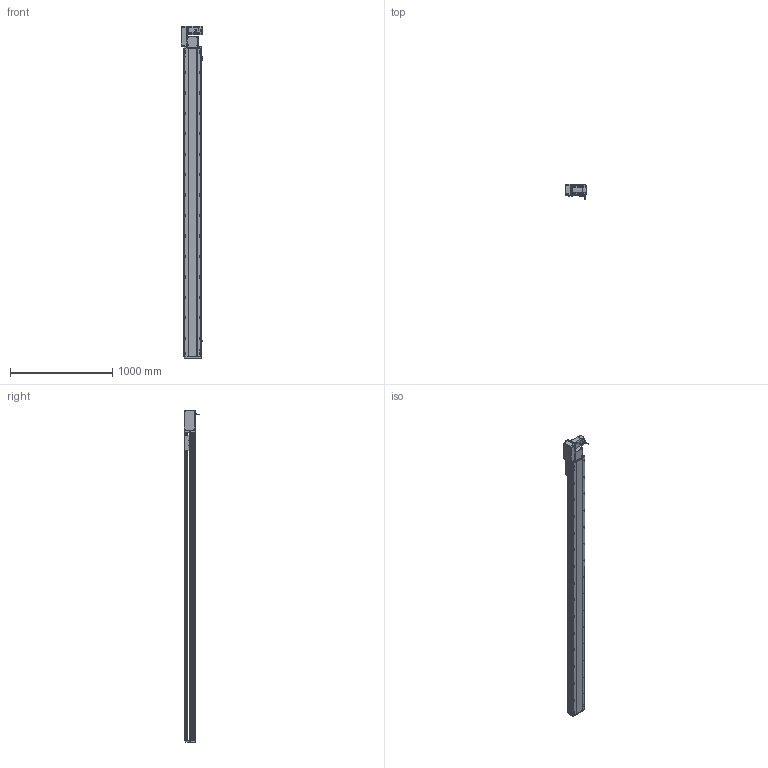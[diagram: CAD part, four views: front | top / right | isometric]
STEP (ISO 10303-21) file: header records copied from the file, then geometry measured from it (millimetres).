
FILE_DESCRIPTION (( 'STEP AP214' ), '1' );
FILE_NAME ('RTB17S-XX-2750-L-M75-C4.STEP', '2025-12-12T00:23:09', ( '' ), ( '' ), 'SwSTEP 2.0', 'SolidWorks 2018', '' );
FILE_SCHEMA (( 'AUTOMOTIVE_DESIGN' ));
Length unit declared in the file: millimetre
Products named in the file (15): RTB22S-GY-018P^RTB17S-L-々湍釱蚾饜-750W_RTB17S-XX-XX-L-M75-C4; RTB17S-XX-2750-L-M75-C4; RTB17S-L-007奻裔^RTB17S-XX-XX-L-M75-C4; RTB22S-GY-005P^RTB17S-L-々湍釱蚾饜-750W_RTB17S-XX-XX-L-M75-C4; RTB17S-賑釱^RTB17S-XX-XX-L-M75-C4; RTB22S-GY-008-M75--萇儂啣^RTB17S-L-々湍釱蚾饜-750W_RTB17S-XX-XX-L-M75-C4; RTH13-BL-012覜茼え俋离^RTB17S-賑釱_RTB17S-XX-XX-L-M75-C4; RTB22S-GY-017P^RTB17S-L-々湍釱蚾饜-750W_RTB17S-XX-XX-L-M75-C4; RMP17S-L-014-T20-P75--々湍釱^RTB17S-L-々湍釱蚾饜-750W_RTB17S-XX-XX-L-M75-C4; RTB17S-L-々湍釱蚾饜-750W^RTB17S-XX-XX-L-M75-C4; RTB17S-L-004-賑釱^RTB17S-賑釱_RTB17S-XX-XX-L-M75-C4; 750W萇儂^RTB17S-XX-XX-L-M75-C4; EE672^RTB17S-XX-XX-L-M75-C4; RTB17S-L-001-耜醱啣^RTB17S-XX-XX-L-M75-C4; RTB17-R-011菁釱^RTB17S-XX-XX-L-M75-C4
Assembly tree (17 placements, depth 3):
  RTB17S-XX-2750-L-M75-C4
    RTB17-R-011菁釱^RTB17S-XX-XX-L-M75-C4
    EE672^RTB17S-XX-XX-L-M75-C4  x3
    RTB17S-L-001-耜醱啣^RTB17S-XX-XX-L-M75-C4
    RTB17S-賑釱^RTB17S-XX-XX-L-M75-C4
      RTB17S-L-004-賑釱^RTB17S-賑釱_RTB17S-XX-XX-L-M75-C4
      RTH13-BL-012覜茼え俋离^RTB17S-賑釱_RTB17S-XX-XX-L-M75-C4
    RTB17S-L-007奻裔^RTB17S-XX-XX-L-M75-C4
    750W萇儂^RTB17S-XX-XX-L-M75-C4
    RTB17S-L-々湍釱蚾饜-750W^RTB17S-XX-XX-L-M75-C4
      RMP17S-L-014-T20-P75--々湍釱^RTB17S-L-々湍釱蚾饜-750W_RTB17S-XX-XX-L-M75-C4
      RTB22S-GY-005P^RTB17S-L-々湍釱蚾饜-750W_RTB17S-XX-XX-L-M75-C4
      RTB22S-GY-017P^RTB17S-L-々湍釱蚾饜-750W_RTB17S-XX-XX-L-M75-C4  x2
      RTB22S-GY-008-M75--萇儂啣^RTB17S-L-々湍釱蚾饜-750W_RTB17S-XX-XX-L-M75-C4
      RTB22S-GY-018P^RTB17S-L-々湍釱蚾饜-750W_RTB17S-XX-XX-L-M75-C4
Bounding box: 210.4 x 152.7 x 3249 mm (x, y, z)
Volume: 23140667.1 mm3; surface area: 4220495.2 mm2
Topology: 17 solids, 17 shells, 2233 faces, 6268 edges, 4058 vertices
Faces by surface type: plane 988, cylinder 829, bspline 294, cone 110, sphere 8, torus 4
Entity records: 65014 total; most frequent: CARTESIAN_POINT 19332, ORIENTED_EDGE 9380, DIRECTION 8672, EDGE_CURVE 4690, AXIS2_PLACEMENT_3D 3078, VERTEX_POINT 3062, VECTOR 2516, LINE 2516
